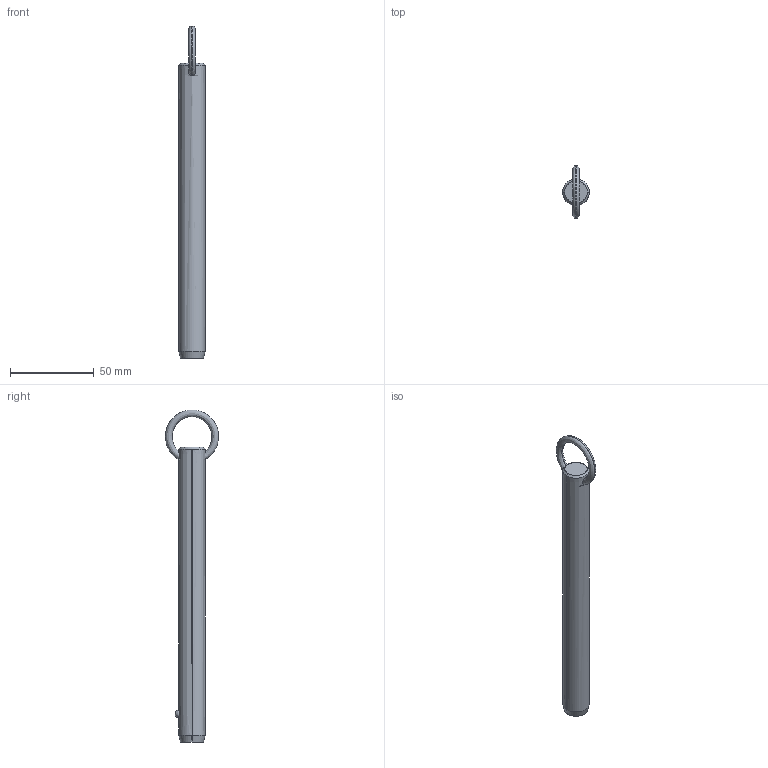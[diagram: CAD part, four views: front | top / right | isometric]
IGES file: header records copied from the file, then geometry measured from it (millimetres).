
Start section: SolidWorks IGES file using analytic representation for surfaces
Global section: file name: C:\Users\liam_\OneDrive\Documents\WORK\Work for WixRoyd\Job Files\J-00019 - Matt Davis CAD Checking\04. CAD Drawings\automotion20190605\P1250.2_v2\P1250.2_v2_20190729_IGES\P1250.062-580.igs; native system: SolidWorks 2017; preprocessor: SolidWorks 2017; author: liam_; date: 190729.234106; units: millimetre
Bounding box: 15.8 x 31.7 x 198 mm (x, y, z)
Surface area: 9900.1 mm2 (no closed solid volume)
Topology: 0 solids, 0 shells, 12 faces, 292 edges, 290 vertices
Faces by surface type: revolution 8, bspline 4
